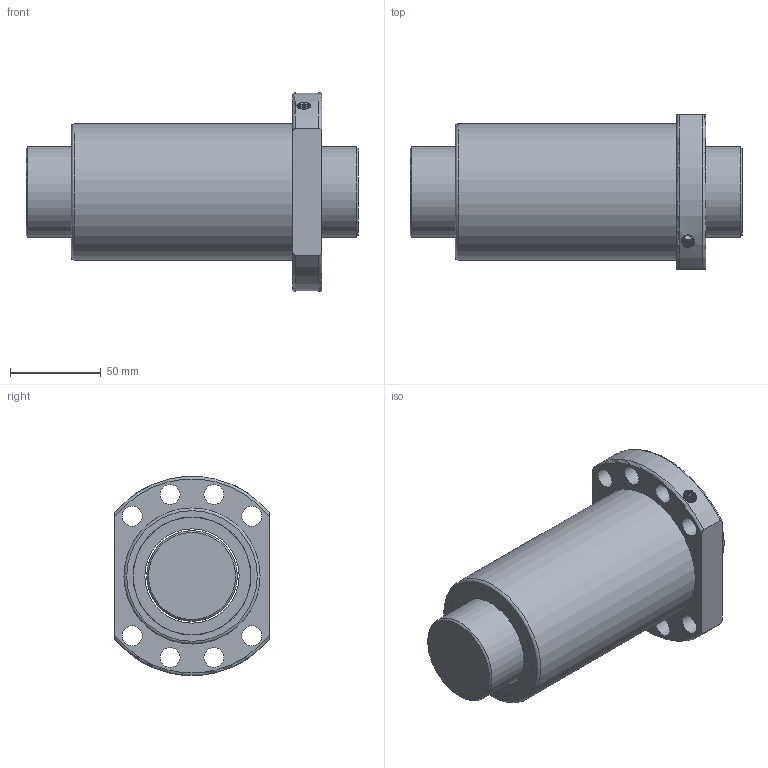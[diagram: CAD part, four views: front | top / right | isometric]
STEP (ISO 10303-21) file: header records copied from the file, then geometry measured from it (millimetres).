
FILE_DESCRIPTION (( 'STEP AP203' ), '1' );
FILE_NAME ('SFNU05020-4.STEP', '2023-08-16T03:42:46', ( '' ), ( '' ), 'SwSTEP 2.0', 'SolidWorks 2022', '' );
FILE_SCHEMA (( 'CONFIG_CONTROL_DESIGN' ));
Length unit declared in the file: millimetre
Products named in the file (1): SFNU05020-4
Bounding box: 183 x 85 x 109.65 mm (x, y, z)
Volume: 724591.1 mm3; surface area: 107791.6 mm2
Topology: 2 solids, 2 shells, 38 faces, 96 edges, 65 vertices
Faces by surface type: cylinder 18, plane 10, torus 5, cone 3, bspline 2
Full cylindrical faces by diameter (mm): 4 x1, 11 x8, 50 x1, 52 x1, 64.665 x1, 65 x1, 75 x1
Entity records: 2985 total; most frequent: CARTESIAN_POINT 2097, DIRECTION 164, ORIENTED_EDGE 136, EDGE_LOOP 79, AXIS2_PLACEMENT_3D 78, EDGE_CURVE 68, VERTEX_POINT 55, FACE_OUTER_BOUND 53
